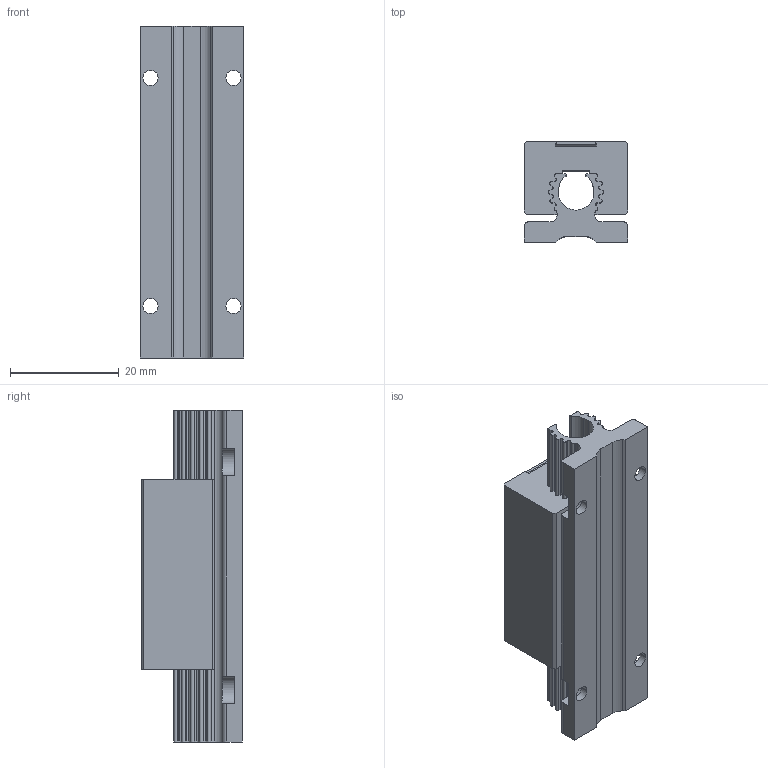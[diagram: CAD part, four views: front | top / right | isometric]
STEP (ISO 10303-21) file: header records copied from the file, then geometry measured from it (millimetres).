
FILE_DESCRIPTION (( 'STEP AP214' ), '1' );
FILE_NAME ('AMETEK-RGS04KN-A00-0000-01.00-001.STEP', '2022-03-04T09:14:52', ( '' ), ( '' ), 'SwSTEP 2.0', 'SolidWorks 2021', '' );
FILE_SCHEMA (( 'AUTOMOTIVE_DESIGN' ));
Length unit declared in the file: inch
Products named in the file (4): Rail Dumbied; AMETEK-RGS04KN-A00-0000-01.00-001; Carriage RGS4000; cover RGS4000
Assembly tree (3 placements, depth 2):
  AMETEK-RGS04KN-A00-0000-01.00-001
    Rail Dumbied
    Carriage RGS4000
    cover RGS4000
Bounding box: 19.05 x 18.54 x 60.96 mm (x, y, z)
Volume: 12455.7 mm3; surface area: 9694.9 mm2
Topology: 3 solids, 5 shells, 308 faces, 859 edges, 564 vertices
Faces by surface type: plane 187, cylinder 105, cone 16
Entity records: 10001 total; most frequent: CARTESIAN_POINT 1729, ORIENTED_EDGE 1702, DIRECTION 1699, EDGE_CURVE 851, LINE 631, VECTOR 631, VERTEX_POINT 564, AXIS2_PLACEMENT_3D 534
